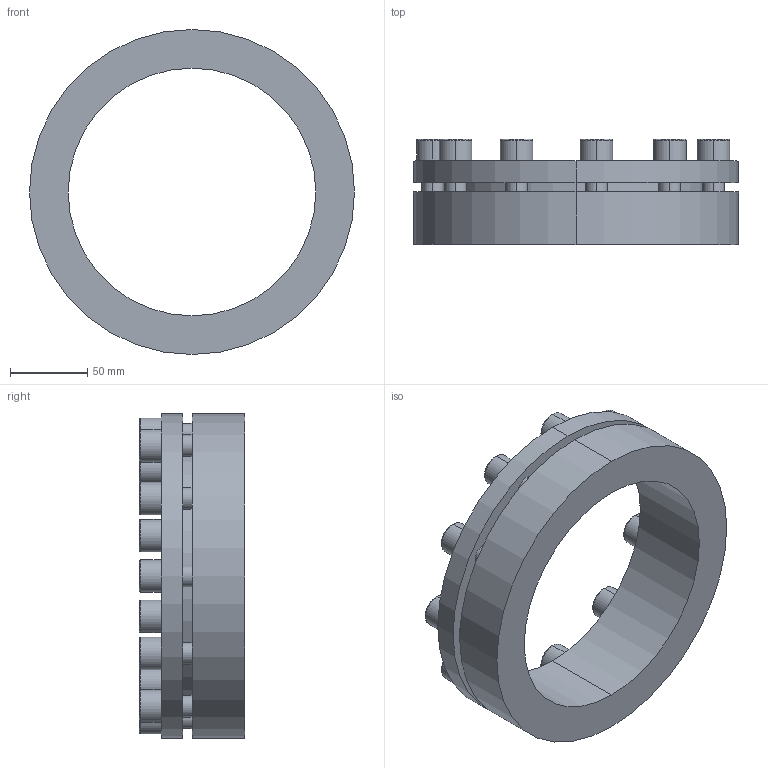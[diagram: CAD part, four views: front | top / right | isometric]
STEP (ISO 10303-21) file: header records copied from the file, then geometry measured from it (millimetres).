
FILE_DESCRIPTION (( 'STEP AP203' ), '1' );
FILE_NAME ('PL-H3 160-210.STEP', '2021-10-23T01:10:57', ( '' ), ( '' ), 'SwSTEP 2.0', 'SolidWorks 2018', '' );
FILE_SCHEMA (( 'CONFIG_CONTROL_DESIGN' ));
Length unit declared in the file: millimetre
Products named in the file (1): PL-H3 160-210
Bounding box: 210 x 68 x 210 mm (x, y, z)
Volume: 766729 mm3; surface area: 127511.4 mm2
Topology: 1 solids, 1 shells, 166 faces, 398 edges, 258 vertices
Faces by surface type: plane 92, cylinder 52, torus 22
Entity records: 4959 total; most frequent: DIRECTION 880, CARTESIAN_POINT 823, ORIENTED_EDGE 796, EDGE_CURVE 398, AXIS2_PLACEMENT_3D 315, VERTEX_POINT 258, VECTOR 250, LINE 250
